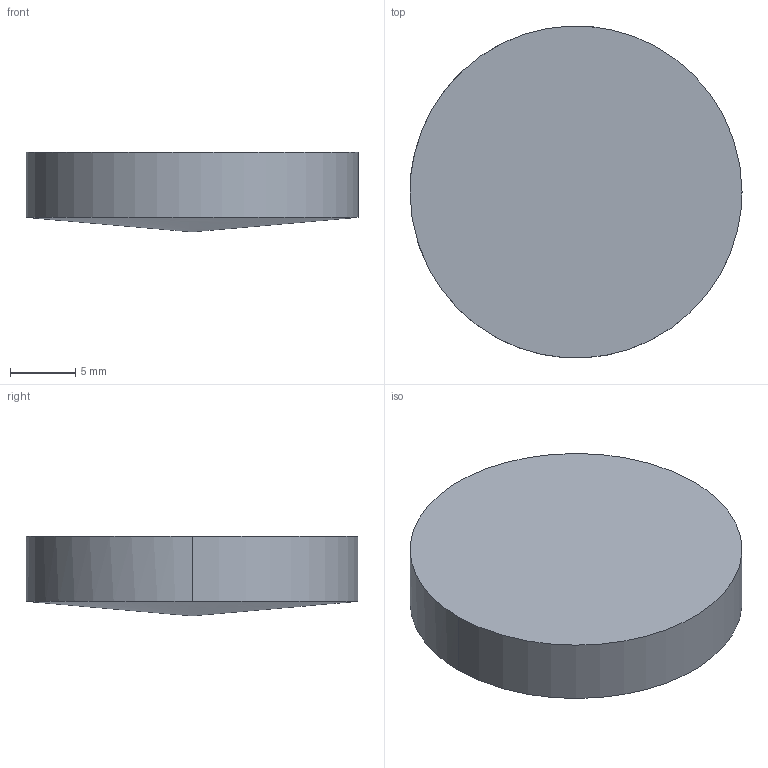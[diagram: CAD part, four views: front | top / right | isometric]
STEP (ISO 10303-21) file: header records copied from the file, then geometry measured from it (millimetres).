
FILE_DESCRIPTION ((), '1');
FILE_NAME ('\\fileserver\Daten\Applikationen\Optikdesign\SPA-Design\aktuelle SPA-Designs\Linsenkataloge - 2016-Juni\Zemax\XFL\XFL25-050.STP', '2016-05-24T14:28:57', ('Unknown'), ('Unknown'), 'HarmonyWare STEP v2.0.1', 'HarmonyWare Translators', '');
FILE_SCHEMA (('CONFIG_CONTROL_DESIGN'));
Length unit declared in the file: millimetre
Products named in the file (1): NONE
Bounding box: 25.4 x 25.38 x 6.11 mm (x, y, z)
Volume: 2722.3 mm3; surface area: 1414.9 mm2
Topology: 1 solids, 1 shells, 4 faces, 9 edges, 6 vertices
Faces by surface type: cylinder 2, bspline 1, plane 1
Entity records: 285 total; most frequent: CARTESIAN_POINT 134, ORIENTED_EDGE 16, EDGE_CURVE 8, PERSON 8, ORGANIZATION 8, PERSON_AND_ORGANIZATION 8, VERTEX_POINT 6, DIRECTION 6
